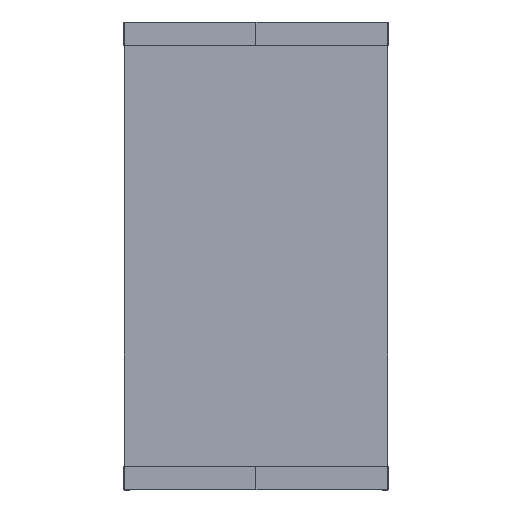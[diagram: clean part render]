
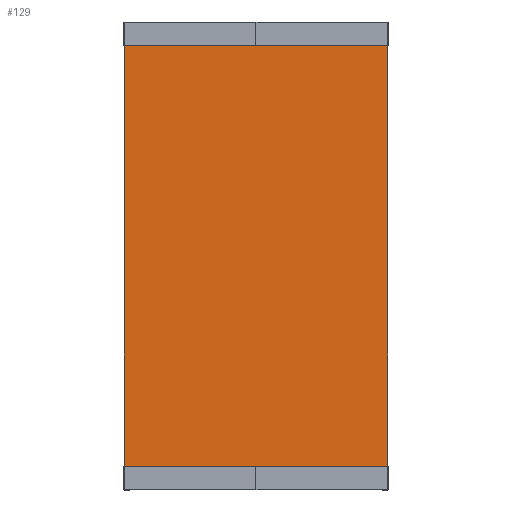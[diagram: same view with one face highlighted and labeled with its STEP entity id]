
A CAD part, top view. The second image highlights one B-rep face of the part: STEP entity #129.
In plain terms, the highlighted planar face has unit normal (0, 0, 1).
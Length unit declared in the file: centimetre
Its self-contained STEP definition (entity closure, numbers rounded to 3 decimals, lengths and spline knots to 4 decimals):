
#129=ADVANCED_FACE($,(#295),#2025,.T.);
#295=FACE_OUTER_BOUND($,#461,.T.);
#461=EDGE_LOOP($,(#922,#923,#924,#925));
#922=ORIENTED_EDGE($,*,*,#1495,.F.);
#923=ORIENTED_EDGE($,*,*,#1494,.F.);
#924=ORIENTED_EDGE($,*,*,#1493,.F.);
#925=ORIENTED_EDGE($,*,*,#1492,.F.);
#1492=EDGE_CURVE($,#1814,#1815,#2288,.T.);
#1493=EDGE_CURVE($,#1815,#1816,#2289,.T.);
#1494=EDGE_CURVE($,#1816,#1817,#2290,.T.);
#1495=EDGE_CURVE($,#1817,#1814,#2291,.T.);
#1814=VERTEX_POINT($,#3490);
#1815=VERTEX_POINT($,#3491);
#1816=VERTEX_POINT($,#3492);
#1817=VERTEX_POINT($,#3493);
#2025=PLANE($,#2659);
#2288=B_SPLINE_CURVE_WITH_KNOTS($,1,(#3464,#3465),.UNSPECIFIED.,.F.,.F.,
(2,2),(0.,126.),.UNSPECIFIED.);
#2289=B_SPLINE_CURVE_WITH_KNOTS($,1,(#3466,#3467),.UNSPECIFIED.,.F.,.F.,
(2,2),(0.,78.9),.UNSPECIFIED.);
#2290=B_SPLINE_CURVE_WITH_KNOTS($,1,(#3468,#3469),.UNSPECIFIED.,.F.,.F.,
(2,2),(0.,126.),.UNSPECIFIED.);
#2291=B_SPLINE_CURVE_WITH_KNOTS($,1,(#3470,#3471),.UNSPECIFIED.,.F.,.F.,
(2,2),(0.,78.9),.UNSPECIFIED.);
#2659=AXIS2_PLACEMENT_3D($,#3485,#2828,$);
#2828=DIRECTION($,(0.,0.,1.));
#3464=CARTESIAN_POINT($,(89.55,-62.,74.51));
#3465=CARTESIAN_POINT($,(89.55,64.,74.51));
#3466=CARTESIAN_POINT($,(89.55,64.,74.51));
#3467=CARTESIAN_POINT($,(168.45,64.,74.51));
#3468=CARTESIAN_POINT($,(168.45,64.,74.51));
#3469=CARTESIAN_POINT($,(168.45,-62.,74.51));
#3470=CARTESIAN_POINT($,(168.45,-62.,74.51));
#3471=CARTESIAN_POINT($,(89.55,-62.,74.51));
#3485=CARTESIAN_POINT($,(89.55,-62.,74.51));
#3490=CARTESIAN_POINT($,(89.55,-62.,74.51));
#3491=CARTESIAN_POINT($,(89.55,64.,74.51));
#3492=CARTESIAN_POINT($,(168.45,64.,74.51));
#3493=CARTESIAN_POINT($,(168.45,-62.,74.51));
